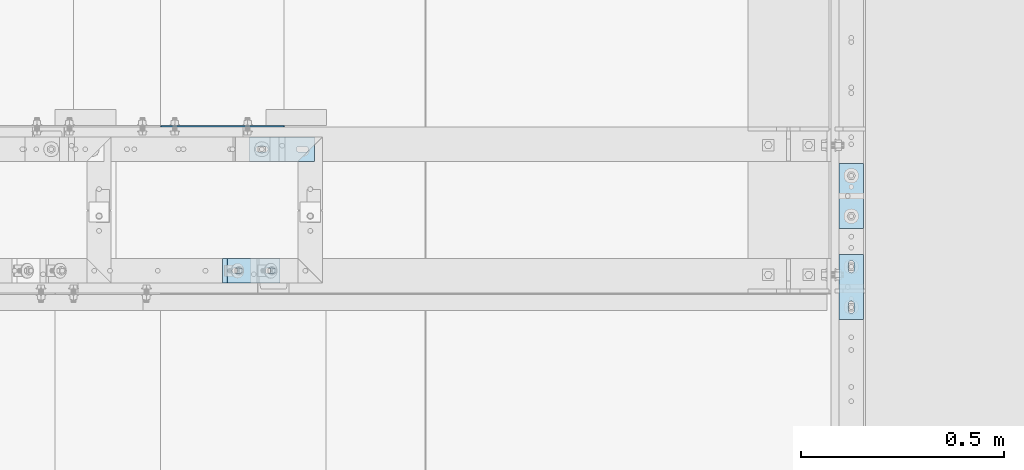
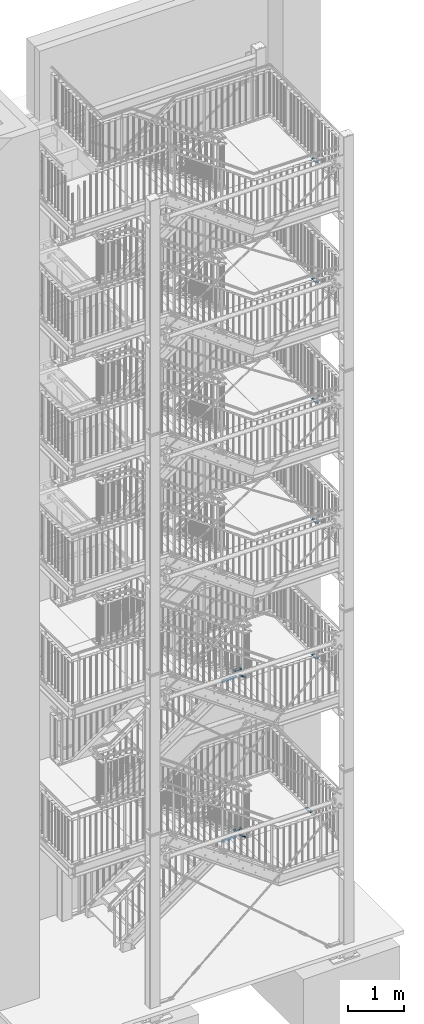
# One storey, part 200 of 825: 12 plates, 24 openings.
"""IFC2X3 building model written with IfcOpenShell, lengths in millimetres."""

import ifcopenshell
import ifcopenshell.guid

model = None  # the IFC model being written
_history = None  # IfcOwnerHistory: only IFC2X3 demands one
_inside = {}  # id of a spatial element -> (the spatial element, [elements in it])
_under = {}  # id of a project, library or spatial element -> (it, [spatial elements below it])
_declared = {}  # id of a project -> (the project, [libraries it declares])
_typed = {}  # id of a type object -> (the type object, [elements of that type])
_made_of = {}  # id of a material, layer set ... -> (it, [elements and type objects made of it])


def new_model(schema):
    """Start an empty IFC model of exactly this schema.

    Asked for "IFC4X3", IfcOpenShell would pick the latest addendum, in which some entities
    have other attributes; the version numbers below select the first issue.
    IFC2X3 requires an IfcOwnerHistory on every rooted entity: one is made here for all.
    """
    global model, _history
    if schema == "IFC4X3":
        model = ifcopenshell.file(schema_version=(4, 3, 0, 0))
    else:
        model = ifcopenshell.file(schema=schema)
    _inside.clear()
    _under.clear()
    _declared.clear()
    _typed.clear()
    _made_of.clear()
    _history = None
    if model.schema == "IFC2X3":
        org = make("IfcOrganization", Name="unknown")
        user = make(
            "IfcPersonAndOrganization",
            ThePerson=make("IfcPerson", FamilyName="unknown"),
            TheOrganization=org,
        )
        app = make(
            "IfcApplication",
            ApplicationDeveloper=org,
            Version="unknown",
            ApplicationFullName="unknown",
            ApplicationIdentifier="unknown",
        )
        _history = make(
            "IfcOwnerHistory",
            OwningUser=user,
            OwningApplication=app,
            ChangeAction="ADDED",
            CreationDate=0,
        )
    return model


def make(cls, **values):
    """One entity of the class cls with the attributes given. An attribute that is None is left unset."""
    return model.create_entity(
        cls, **{name: value for name, value in values.items() if value is not None}
    )


def entity(cls, *values):
    """Any entity or typed value of the class cls, its attributes in the order of the schema. None: left unset."""
    e = model.create_entity(cls)
    for i, value in enumerate(values):
        if value is not None:
            e[i] = value
    return e


def rooted(cls, **values):
    """An entity with a GlobalId (a new one), such as an element, a storey or a relation."""
    return make(cls, GlobalId=ifcopenshell.guid.new(), OwnerHistory=_history, **values)


def si_unit(unit_type, name, prefix=None):
    """IfcSIUnit, for example si_unit("LENGTHUNIT", "METRE", prefix="MILLI")."""
    return make("IfcSIUnit", UnitType=unit_type, Prefix=prefix, Name=name)


def converted_unit(unit_type, name, factor, base, dimensions=None, offset=None):
    """IfcConversionBasedUnit, such as the inch: factor (a typed value) times the base unit."""
    return make(
        "IfcConversionBasedUnit"
        if offset is None
        else "IfcConversionBasedUnitWithOffset",
        ConversionOffset=offset,
        Dimensions=None
        if dimensions is None
        else entity("IfcDimensionalExponents", *dimensions),
        UnitType=unit_type,
        Name=name,
        ConversionFactor=make(
            "IfcMeasureWithUnit", ValueComponent=factor, UnitComponent=base
        ),
    )


def assignment(units):
    """IfcUnitAssignment: the units of a project."""
    return None if units is None else make("IfcUnitAssignment", Units=units)


def point(xyz):
    """IfcCartesianPoint."""
    return None if xyz is None else make("IfcCartesianPoint", Coordinates=xyz)


def direction(xyz):
    """IfcDirection."""
    return None if xyz is None else make("IfcDirection", DirectionRatios=xyz)


def frame(location, z_axis=None, x_axis=None):
    """IfcAxis2Placement3D, a coordinate frame: its origin and axes. An axis left out is left unset."""
    return make(
        "IfcAxis2Placement3D",
        Location=point(location),
        Axis=direction(z_axis),
        RefDirection=direction(x_axis),
    )


def frame_2d(location, x_axis=None):
    """IfcAxis2Placement2D, a coordinate frame in the plane: its origin and x axis."""
    return make(
        "IfcAxis2Placement2D", Location=point(location), RefDirection=direction(x_axis)
    )


def origin():
    """The frame at (0, 0, 0) with its axes left unset."""
    return frame((0.0, 0.0, 0.0))


def origin_with_axes():
    """The frame at (0, 0, 0) with the z axis (0, 0, 1) and the x axis (1, 0, 0) written out."""
    return frame((0.0, 0.0, 0.0), z_axis=(0.0, 0.0, 1.0), x_axis=(1.0, 0.0, 0.0))


def origin_2d_with_axis():
    """The frame at (0, 0) in the plane with the x axis (1, 0) written out."""
    return frame_2d((0.0, 0.0), x_axis=(1.0, 0.0))


def place(relative_to, where):
    """IfcLocalPlacement: puts the frame where relative to a parent placement (None: the world)."""
    return make(
        "IfcLocalPlacement", PlacementRelTo=relative_to, RelativePlacement=where
    )


def context(
    kind, dimensions, precision=None, world=None, true_north=None, identifier=None
):
    """IfcGeometricRepresentationContext, for example the 3D "Model" context."""
    return make(
        "IfcGeometricRepresentationContext",
        ContextIdentifier=identifier,
        ContextType=kind,
        CoordinateSpaceDimension=dimensions,
        Precision=precision,
        WorldCoordinateSystem=world,
        TrueNorth=true_north,
    )


def project(units=None, contexts=None):
    """IfcProject with its units and contexts."""
    return rooted(
        "IfcProject",
        Name="project",
        RepresentationContexts=contexts,
        UnitsInContext=assignment(units),
    )


def spatial(cls, under=None, at=None, **own):
    """A site, building, storey or space (cls), placed at a placement, below another one or the project."""
    s = rooted(cls, ObjectPlacement=at, **own)
    if under is not None:
        _under.setdefault(under.id(), (under, []))[1].append(s)
    return s


def polyline(points):
    """IfcPolyline through the points."""
    return make("IfcPolyline", Points=[point(p) for p in points])


def circle_curve(where, radius):
    """IfcCircle in the frame where."""
    return make("IfcCircle", Position=where, Radius=radius)


def line_curve(start, along, magnitude):
    """IfcLine from a point along a vector."""
    return make(
        "IfcLine",
        Pnt=point(start),
        Dir=make("IfcVector", Orientation=direction(along), Magnitude=magnitude),
    )


def trimmed(basis, trim1, trim2, sense, master):
    """IfcTrimmedCurve: the piece of a basis curve between two trims."""
    return make(
        "IfcTrimmedCurve",
        BasisCurve=basis,
        Trim1=trim1,
        Trim2=trim2,
        SenseAgreement=sense,
        MasterRepresentation=master,
    )


def segment(curve, same_sense, transition):
    """IfcCompositeCurveSegment."""
    return make(
        "IfcCompositeCurveSegment",
        Transition=transition,
        SameSense=same_sense,
        ParentCurve=curve,
    )


def composite_curve(segments, self_intersect=None):
    """IfcCompositeCurve: segments joined end to end."""
    return make("IfcCompositeCurve", Segments=segments, SelfIntersect=self_intersect)


def profile(cls, at=None, kind="AREA", **sizes):
    """A parametric profile (cls). Its sizes go by their IFC names, for example OverallWidth=200.0."""
    return make(cls, ProfileType=kind, Position=at, **sizes)


def circle(**sizes):
    """IfcCircleProfileDef."""
    return profile("IfcCircleProfileDef", **sizes)


def outline(outer, holes=None, kind="AREA"):
    """IfcArbitraryClosedProfileDef: a profile drawn as a closed curve; with holes, ...WithVoids."""
    if holes is None:
        return make("IfcArbitraryClosedProfileDef", ProfileType=kind, OuterCurve=outer)
    return make(
        "IfcArbitraryProfileDefWithVoids",
        ProfileType=kind,
        OuterCurve=outer,
        InnerCurves=holes,
    )


def extrude(swept, where, along, depth):
    """IfcExtrudedAreaSolid: the profile swept, set in the frame where, extruded along a direction by depth."""
    return make(
        "IfcExtrudedAreaSolid",
        SweptArea=swept,
        Position=where,
        ExtrudedDirection=direction(along),
        Depth=depth,
    )


def shape(context_of_items, identifier, shape_type, items):
    """IfcShapeRepresentation: the items that make up one representation, for example the "Body"."""
    return make(
        "IfcShapeRepresentation",
        ContextOfItems=context_of_items,
        RepresentationIdentifier=identifier,
        RepresentationType=shape_type,
        Items=items,
    )


def material(Name=None, Category=None):
    """IfcMaterial."""
    return make("IfcMaterial", Name=Name, Category=Category)


def layer(
    of_material, thickness, ventilated=None, Name=None, Category=None, Priority=None
):
    """IfcMaterialLayer: one layer of a wall or slab, of a material (None: an air gap)."""
    return make(
        "IfcMaterialLayer",
        Material=of_material,
        LayerThickness=thickness,
        IsVentilated=ventilated,
        Name=Name,
        Category=Category,
        Priority=Priority,
    )


def layer_set(layers, Name=None):
    """IfcMaterialLayerSet."""
    return make("IfcMaterialLayerSet", MaterialLayers=layers, LayerSetName=Name)


def made_of(thing, what):
    """Note that an element or type object is made of a material, layer set ...; save() writes the relation."""
    if what is not None:
        _made_of.setdefault(what.id(), (what, []))[1].append(thing)
    return thing


def element(
    cls,
    number,
    at=None,
    inside=None,
    cuts=None,
    type_object=None,
    material=None,
    context=None,
    identifier="Body",
    shape_type=None,
    held_by="IfcProductDefinitionShape",
    body=None,
    shapes=None,
    **own,
):
    """One element of the class cls, such as IfcWall. Its Tag is "e" and its number.

    at: its placement. inside: the storey or other place that contains it. cuts: it is an
    opening in that element (IfcRelVoidsElement). A single representation is given by context,
    identifier, shape_type and body (its items); several are given by shapes. held_by: the class
    of the entity that holds the representations. save() writes the other relations.
    """
    e = rooted(cls, Tag="e%d" % number, ObjectPlacement=at, **own)
    if body is not None:
        shapes = [shape(context, identifier, shape_type, body)]
    if shapes is not None:
        e.Representation = make(held_by, Representations=shapes)
    if inside is not None:
        _inside.setdefault(inside.id(), (inside, []))[1].append(e)
    if cuts is not None:
        rooted(
            "IfcRelVoidsElement", RelatingBuildingElement=cuts, RelatedOpeningElement=e
        )
    if type_object is not None:
        _typed.setdefault(type_object.id(), (type_object, []))[1].append(e)
    return made_of(e, material)


def aggregate(whole, parts):
    """IfcRelAggregates: a whole, such as a stair, and the parts it consists of."""
    return rooted("IfcRelAggregates", RelatingObject=whole, RelatedObjects=parts)


def save(model, path):
    """Write the relations noted so far, then the file.

    IfcRelAggregates (storeys below a building ...), IfcRelContainedInSpatialStructure (elements
    in a storey), IfcRelDefinesByType, IfcRelAssociatesMaterial and IfcRelDeclares: one each for
    every whole, place, type object, material and project.
    """
    for whole, parts in _under.values():
        aggregate(whole, parts)
    for where, things in _inside.values():
        rooted(
            "IfcRelContainedInSpatialStructure",
            RelatedElements=things,
            RelatingStructure=where,
        )
    for kind, things in _typed.values():
        rooted("IfcRelDefinesByType", RelatedObjects=things, RelatingType=kind)
    for what, things in _made_of.values():
        rooted("IfcRelAssociatesMaterial", RelatedObjects=things, RelatingMaterial=what)
    for by, libraries in _declared.values():
        rooted("IfcRelDeclares", RelatingContext=by, RelatedDefinitions=libraries)
    model.write(path)


model = new_model("IFC2X3")

# Units and contexts
model_context = context("Model", 3, precision=1e-09, world=origin_with_axes())
ifc_project = project(units=[si_unit("LENGTHUNIT", "METRE", prefix="MILLI"), si_unit("AREAUNIT", "SQUARE_METRE"), si_unit("VOLUMEUNIT", "CUBIC_METRE"), converted_unit("PLANEANGLEUNIT", "DEGREE", entity("IfcPlaneAngleMeasure", 0.01745329), si_unit("PLANEANGLEUNIT", "RADIAN"), dimensions=[0, 0, 0, 0, 0, 0, 0])], contexts=[model_context])

# Site, building, storey
site_placement = place(None, origin_with_axes())
site = spatial("IfcSite", under=ifc_project, at=site_placement, Name="Cnopf'sche Kinderklinik", CompositionType="ELEMENT")
building_placement = place(site_placement, origin_with_axes())
building = spatial("IfcBuilding", under=site, at=building_placement, Name="Struktur 1", CompositionType="ELEMENT")
storey_placement = place(building_placement, origin_with_axes())
storey = spatial("IfcBuildingStorey", under=building, at=storey_placement, Name="Default Storey", CompositionType="ELEMENT", Elevation=0.0)

# Plate, openings
ifc_material = material(Name="S235JR")
ifc_layer_1 = layer(ifc_material, 20.0)
ifc_layer_set_1 = layer_set([ifc_layer_1], Name="S235JR")
plate_1_placement = place(None, frame((9051.713402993, 5896.351913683, 2181.0526312), z_axis=(0.0, 0.0, 1.0), x_axis=(0.0, 1.0, 0.0)))
plate_1 = element("IfcPlate", 1, at=plate_1_placement, inside=storey, material=ifc_layer_set_1, Name="Plate#505", ObjectType="Plate#505", context=model_context, shape_type="SweptSolid", body=[
    extrude(outline(polyline([(0.0, 0.0), (160.0, 0.0), (160.0, 60.0), (0.0, 60.0), (0.0, 0.0)])), origin_with_axes(), (0.0, 0.0, 1.0), 20.0),
])
opening_1_placement = place(plate_1_placement, frame((38.0, 37.001, 20.5), z_axis=(0.0, 0.0, 1.0), x_axis=(-1.0, 0.0, 0.0)))
element("IfcOpeningElement", 2, at=opening_1_placement, cuts=plate_1, ObjectType="Opening", context=model_context, shape_type="SweptSolid", body=[
    extrude(outline(composite_curve([segment(trimmed(line_curve((0.0, 0.0), (1.0, 0.0), 16.0), [point((0.0, 0.0))], [point((16.0, 0.0))], True, "CARTESIAN"), True, "CONTINUOUS"), segment(trimmed(circle_curve(frame_2d((16.0, 7.001), x_axis=(1.0, 0.0)), 7.001), [point((16.0, 0.0))], [point((16.0, 14.002))], True, "CARTESIAN"), True, "CONTINUOUS"), segment(trimmed(line_curve((16.0, 14.002), (-1.0, 0.0), 16.0), [point((16.0, 14.002))], [point((0.0, 14.002))], True, "CARTESIAN"), True, "CONTINUOUS"), segment(trimmed(circle_curve(frame_2d((0.0, 7.001), x_axis=(1.0, 0.0)), 7.001), [point((0.0, 14.002))], [point((0.0, 0.0))], True, "CARTESIAN"), True, "CONTINUOUS")], self_intersect=False)), origin(), (0.0, 0.0, -1.0), 21.0),
])
opening_2_placement = place(plate_1_placement, frame((138.0, 37.001, 20.5), z_axis=(0.0, 0.0, 1.0), x_axis=(-1.0, 0.0, 0.0)))
element("IfcOpeningElement", 3, at=opening_2_placement, cuts=plate_1, ObjectType="Opening", context=model_context, shape_type="SweptSolid", body=[
    extrude(outline(composite_curve([segment(trimmed(line_curve((0.0, 0.0), (1.0, 0.0), 16.0), [point((0.0, 0.0))], [point((16.0, 0.0))], True, "CARTESIAN"), True, "CONTINUOUS"), segment(trimmed(circle_curve(frame_2d((16.0, 7.001), x_axis=(1.0, 0.0)), 7.001), [point((16.0, 0.0))], [point((16.0, 14.002))], True, "CARTESIAN"), True, "CONTINUOUS"), segment(trimmed(line_curve((16.0, 14.002), (-1.0, 0.0), 16.0), [point((16.0, 14.002))], [point((0.0, 14.002))], True, "CARTESIAN"), True, "CONTINUOUS"), segment(trimmed(circle_curve(frame_2d((0.0, 7.001), x_axis=(1.0, 0.0)), 7.001), [point((0.0, 14.002))], [point((0.0, 0.0))], True, "CARTESIAN"), True, "CONTINUOUS")], self_intersect=False)), origin(), (0.0, 0.0, -1.0), 21.0),
])

plate_2_placement = place(None, frame((9051.713402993, 5671.736114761, 5674.8947367), z_axis=(0.0, 0.0, 1.0), x_axis=(0.0, 1.0, 0.0)))
plate_2 = element("IfcPlate", 4, at=plate_2_placement, inside=storey, material=ifc_layer_set_1, Name="Plate#506", ObjectType="Plate#506", context=model_context, shape_type="SweptSolid", body=[
    extrude(outline(polyline([(0.0, 0.0), (160.0, 0.0), (160.0, 60.0), (0.0, 60.0), (0.0, 0.0)])), origin_with_axes(), (0.0, 0.0, 1.0), 20.0),
])
opening_3_placement = place(plate_2_placement, frame((38.0, 37.001, 20.5), z_axis=(0.0, 0.0, 1.0), x_axis=(-1.0, 0.0, 0.0)))
element("IfcOpeningElement", 5, at=opening_3_placement, cuts=plate_2, ObjectType="Opening", context=model_context, shape_type="SweptSolid", body=[
    extrude(outline(composite_curve([segment(trimmed(line_curve((0.0, 0.0), (1.0, 0.0), 16.0), [point((0.0, 0.0))], [point((16.0, 0.0))], True, "CARTESIAN"), True, "CONTINUOUS"), segment(trimmed(circle_curve(frame_2d((16.0, 7.001), x_axis=(1.0, 0.0)), 7.001), [point((16.0, 0.0))], [point((16.0, 14.002))], True, "CARTESIAN"), True, "CONTINUOUS"), segment(trimmed(line_curve((16.0, 14.002), (-1.0, 0.0), 16.0), [point((16.0, 14.002))], [point((0.0, 14.002))], True, "CARTESIAN"), True, "CONTINUOUS"), segment(trimmed(circle_curve(frame_2d((0.0, 7.001), x_axis=(1.0, 0.0)), 7.001), [point((0.0, 14.002))], [point((0.0, 0.0))], True, "CARTESIAN"), True, "CONTINUOUS")], self_intersect=False)), origin(), (0.0, 0.0, -1.0), 21.0),
])
opening_4_placement = place(plate_2_placement, frame((138.0, 37.001, 20.5), z_axis=(0.0, 0.0, 1.0), x_axis=(-1.0, 0.0, 0.0)))
element("IfcOpeningElement", 6, at=opening_4_placement, cuts=plate_2, ObjectType="Opening", context=model_context, shape_type="SweptSolid", body=[
    extrude(outline(composite_curve([segment(trimmed(line_curve((0.0, 0.0), (1.0, 0.0), 16.0), [point((0.0, 0.0))], [point((16.0, 0.0))], True, "CARTESIAN"), True, "CONTINUOUS"), segment(trimmed(circle_curve(frame_2d((16.0, 7.001), x_axis=(1.0, 0.0)), 7.001), [point((16.0, 0.0))], [point((16.0, 14.002))], True, "CARTESIAN"), True, "CONTINUOUS"), segment(trimmed(line_curve((16.0, 14.002), (-1.0, 0.0), 16.0), [point((16.0, 14.002))], [point((0.0, 14.002))], True, "CARTESIAN"), True, "CONTINUOUS"), segment(trimmed(circle_curve(frame_2d((0.0, 7.001), x_axis=(1.0, 0.0)), 7.001), [point((0.0, 14.002))], [point((0.0, 0.0))], True, "CARTESIAN"), True, "CONTINUOUS")], self_intersect=False)), origin(), (0.0, 0.0, -1.0), 21.0),
])

plate_3_placement = place(None, frame((9051.713402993, 5671.736114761, 8636.0), z_axis=(0.0, 0.0, 1.0), x_axis=(0.0, 1.0, 0.0)))
plate_3 = element("IfcPlate", 7, at=plate_3_placement, inside=storey, material=ifc_layer_set_1, Name="Plate#506", ObjectType="Plate#506", context=model_context, shape_type="SweptSolid", body=[
    extrude(outline(polyline([(0.0, 0.0), (160.0, 0.0), (160.0, 60.0), (0.0, 60.0), (0.0, 0.0)])), origin_with_axes(), (0.0, 0.0, 1.0), 20.0),
])
opening_5_placement = place(plate_3_placement, frame((38.0, 37.001, 20.5), z_axis=(0.0, 0.0, 1.0), x_axis=(-1.0, 0.0, 0.0)))
element("IfcOpeningElement", 8, at=opening_5_placement, cuts=plate_3, ObjectType="Opening", context=model_context, shape_type="SweptSolid", body=[
    extrude(outline(composite_curve([segment(trimmed(line_curve((0.0, 0.0), (1.0, 0.0), 16.0), [point((0.0, 0.0))], [point((16.0, 0.0))], True, "CARTESIAN"), True, "CONTINUOUS"), segment(trimmed(circle_curve(frame_2d((16.0, 7.001), x_axis=(1.0, 0.0)), 7.001), [point((16.0, 0.0))], [point((16.0, 14.002))], True, "CARTESIAN"), True, "CONTINUOUS"), segment(trimmed(line_curve((16.0, 14.002), (-1.0, 0.0), 16.0), [point((16.0, 14.002))], [point((0.0, 14.002))], True, "CARTESIAN"), True, "CONTINUOUS"), segment(trimmed(circle_curve(frame_2d((0.0, 7.001), x_axis=(1.0, 0.0)), 7.001), [point((0.0, 14.002))], [point((0.0, 0.0))], True, "CARTESIAN"), True, "CONTINUOUS")], self_intersect=False)), origin(), (0.0, 0.0, -1.0), 21.0),
])
opening_6_placement = place(plate_3_placement, frame((138.0, 37.001, 20.5), z_axis=(0.0, 0.0, 1.0), x_axis=(-1.0, 0.0, 0.0)))
element("IfcOpeningElement", 9, at=opening_6_placement, cuts=plate_3, ObjectType="Opening", context=model_context, shape_type="SweptSolid", body=[
    extrude(outline(composite_curve([segment(trimmed(line_curve((0.0, 0.0), (1.0, 0.0), 16.0), [point((0.0, 0.0))], [point((16.0, 0.0))], True, "CARTESIAN"), True, "CONTINUOUS"), segment(trimmed(circle_curve(frame_2d((16.0, 7.001), x_axis=(1.0, 0.0)), 7.001), [point((16.0, 0.0))], [point((16.0, 14.002))], True, "CARTESIAN"), True, "CONTINUOUS"), segment(trimmed(line_curve((16.0, 14.002), (-1.0, 0.0), 16.0), [point((16.0, 14.002))], [point((0.0, 14.002))], True, "CARTESIAN"), True, "CONTINUOUS"), segment(trimmed(circle_curve(frame_2d((0.0, 7.001), x_axis=(1.0, 0.0)), 7.001), [point((0.0, 14.002))], [point((0.0, 0.0))], True, "CARTESIAN"), True, "CONTINUOUS")], self_intersect=False)), origin(), (0.0, 0.0, -1.0), 21.0),
])

plate_4_placement = place(None, frame((9051.713402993, 5671.736114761, 11265.5000003), z_axis=(0.0, 0.0, 1.0), x_axis=(0.0, 1.0, 0.0)))
plate_4 = element("IfcPlate", 10, at=plate_4_placement, inside=storey, material=ifc_layer_set_1, Name="Plate#506", ObjectType="Plate#506", context=model_context, shape_type="SweptSolid", body=[
    extrude(outline(polyline([(0.0, 0.0), (160.0, 0.0), (160.0, 60.0), (0.0, 60.0), (0.0, 0.0)])), origin_with_axes(), (0.0, 0.0, 1.0), 20.0),
])
opening_7_placement = place(plate_4_placement, frame((38.0, 37.001, 20.5), z_axis=(0.0, 0.0, 1.0), x_axis=(-1.0, 0.0, 0.0)))
element("IfcOpeningElement", 11, at=opening_7_placement, cuts=plate_4, ObjectType="Opening", context=model_context, shape_type="SweptSolid", body=[
    extrude(outline(composite_curve([segment(trimmed(line_curve((0.0, 0.0), (1.0, 0.0), 16.0), [point((0.0, 0.0))], [point((16.0, 0.0))], True, "CARTESIAN"), True, "CONTINUOUS"), segment(trimmed(circle_curve(frame_2d((16.0, 7.001), x_axis=(1.0, 0.0)), 7.001), [point((16.0, 0.0))], [point((16.0, 14.002))], True, "CARTESIAN"), True, "CONTINUOUS"), segment(trimmed(line_curve((16.0, 14.002), (-1.0, 0.0), 16.0), [point((16.0, 14.002))], [point((0.0, 14.002))], True, "CARTESIAN"), True, "CONTINUOUS"), segment(trimmed(circle_curve(frame_2d((0.0, 7.001), x_axis=(1.0, 0.0)), 7.001), [point((0.0, 14.002))], [point((0.0, 0.0))], True, "CARTESIAN"), True, "CONTINUOUS")], self_intersect=False)), origin(), (0.0, 0.0, -1.0), 21.0),
])
opening_8_placement = place(plate_4_placement, frame((138.0, 37.001, 20.5), z_axis=(0.0, 0.0, 1.0), x_axis=(-1.0, 0.0, 0.0)))
element("IfcOpeningElement", 12, at=opening_8_placement, cuts=plate_4, ObjectType="Opening", context=model_context, shape_type="SweptSolid", body=[
    extrude(outline(composite_curve([segment(trimmed(line_curve((0.0, 0.0), (1.0, 0.0), 16.0), [point((0.0, 0.0))], [point((16.0, 0.0))], True, "CARTESIAN"), True, "CONTINUOUS"), segment(trimmed(circle_curve(frame_2d((16.0, 7.001), x_axis=(1.0, 0.0)), 7.001), [point((16.0, 0.0))], [point((16.0, 14.002))], True, "CARTESIAN"), True, "CONTINUOUS"), segment(trimmed(line_curve((16.0, 14.002), (-1.0, 0.0), 16.0), [point((16.0, 14.002))], [point((0.0, 14.002))], True, "CARTESIAN"), True, "CONTINUOUS"), segment(trimmed(circle_curve(frame_2d((0.0, 7.001), x_axis=(1.0, 0.0)), 7.001), [point((0.0, 14.002))], [point((0.0, 0.0))], True, "CARTESIAN"), True, "CONTINUOUS")], self_intersect=False)), origin(), (0.0, 0.0, -1.0), 21.0),
])

plate_5_placement = place(None, frame((9051.713402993, 5671.73611476, 13896.5000001), z_axis=(0.0, 0.0, 1.0), x_axis=(0.0, 1.0, 0.0)))
plate_5 = element("IfcPlate", 13, at=plate_5_placement, inside=storey, material=ifc_layer_set_1, Name="Plate#506", ObjectType="Plate#506", context=model_context, shape_type="SweptSolid", body=[
    extrude(outline(polyline([(0.0, 0.0), (160.0, 0.0), (160.0, 60.0), (0.0, 60.0), (0.0, 0.0)])), origin_with_axes(), (0.0, 0.0, 1.0), 20.0),
])
opening_9_placement = place(plate_5_placement, frame((38.0, 37.001, 20.5), z_axis=(0.0, 0.0, 1.0), x_axis=(-1.0, 0.0, 0.0)))
element("IfcOpeningElement", 14, at=opening_9_placement, cuts=plate_5, ObjectType="Opening", context=model_context, shape_type="SweptSolid", body=[
    extrude(outline(composite_curve([segment(trimmed(line_curve((0.0, 0.0), (1.0, 0.0), 16.0), [point((0.0, 0.0))], [point((16.0, 0.0))], True, "CARTESIAN"), True, "CONTINUOUS"), segment(trimmed(circle_curve(frame_2d((16.0, 7.001), x_axis=(1.0, 0.0)), 7.001), [point((16.0, 0.0))], [point((16.0, 14.002))], True, "CARTESIAN"), True, "CONTINUOUS"), segment(trimmed(line_curve((16.0, 14.002), (-1.0, 0.0), 16.0), [point((16.0, 14.002))], [point((0.0, 14.002))], True, "CARTESIAN"), True, "CONTINUOUS"), segment(trimmed(circle_curve(frame_2d((0.0, 7.001), x_axis=(1.0, 0.0)), 7.001), [point((0.0, 14.002))], [point((0.0, 0.0))], True, "CARTESIAN"), True, "CONTINUOUS")], self_intersect=False)), origin(), (0.0, 0.0, -1.0), 21.0),
])
opening_10_placement = place(plate_5_placement, frame((138.0, 37.001, 20.5), z_axis=(0.0, 0.0, 1.0), x_axis=(-1.0, 0.0, 0.0)))
element("IfcOpeningElement", 15, at=opening_10_placement, cuts=plate_5, ObjectType="Opening", context=model_context, shape_type="SweptSolid", body=[
    extrude(outline(composite_curve([segment(trimmed(line_curve((0.0, 0.0), (1.0, 0.0), 16.0), [point((0.0, 0.0))], [point((16.0, 0.0))], True, "CARTESIAN"), True, "CONTINUOUS"), segment(trimmed(circle_curve(frame_2d((16.0, 7.001), x_axis=(1.0, 0.0)), 7.001), [point((16.0, 0.0))], [point((16.0, 14.002))], True, "CARTESIAN"), True, "CONTINUOUS"), segment(trimmed(line_curve((16.0, 14.002), (-1.0, 0.0), 16.0), [point((16.0, 14.002))], [point((0.0, 14.002))], True, "CARTESIAN"), True, "CONTINUOUS"), segment(trimmed(circle_curve(frame_2d((0.0, 7.001), x_axis=(1.0, 0.0)), 7.001), [point((0.0, 14.002))], [point((0.0, 0.0))], True, "CARTESIAN"), True, "CONTINUOUS")], self_intersect=False)), origin(), (0.0, 0.0, -1.0), 21.0),
])

ifc_layer_2 = layer(ifc_material, 3.0)
ifc_layer_set_2 = layer_set([ifc_layer_2], Name="S235JR")
plate_6_placement = place(None, frame((7316.713402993, 6149.736971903, 2035.947368), z_axis=(0.0, -1.0, 0.0), x_axis=(0.0, 0.0, -1.0)))
plate_6 = element("IfcPlate", 16, at=plate_6_placement, inside=storey, material=ifc_layer_set_2, Name="Grate_Step#59", ObjectType="Grate_Step#59", context=model_context, shape_type="SweptSolid", body=[
    extrude(outline(polyline([(0.0, 0.0), (70.0, 0.0), (70.0, 275.0), (40.0, 305.0), (0.0, 305.0), (0.0, 0.0)])), origin_with_axes(), (0.0, 0.0, 1.0), 3.0),
])
opening_11_placement = place(plate_6_placement, frame((55.0, 215.0, -0.5), z_axis=(0.0, 0.0, 1.0), x_axis=(0.0, 1.0, 0.0)))
element("IfcOpeningElement", 17, at=opening_11_placement, cuts=plate_6, ObjectType="Opening", context=model_context, shape_type="SweptSolid", body=[
    extrude(outline(composite_curve([segment(trimmed(line_curve((-9.5, -7.001), (1.0, 0.0), 19.0), [point((-9.5, -7.001))], [point((9.5, -7.001))], True, "CARTESIAN"), True, "CONTINUOUS"), segment(trimmed(circle_curve(frame_2d((9.5, 0.0), x_axis=(1.0, 0.0)), 7.001), [point((9.5, -7.001))], [point((9.5, 7.001))], True, "CARTESIAN"), True, "CONTINUOUS"), segment(trimmed(line_curve((9.5, 7.001), (-1.0, 0.0), 19.0), [point((9.5, 7.001))], [point((-9.5, 7.001))], True, "CARTESIAN"), True, "CONTINUOUS"), segment(trimmed(circle_curve(frame_2d((-9.5, 0.0), x_axis=(1.0, 0.0)), 7.001), [point((-9.5, 7.001))], [point((-9.5, -7.001))], True, "CARTESIAN"), True, "CONTINUOUS")], self_intersect=False)), origin(), (0.0, 0.0, 1.0), 4.0),
])
opening_12_placement = place(plate_6_placement, frame((55.0, 35.0, -0.5), z_axis=(0.0, 0.0, 1.0), x_axis=(0.0, 1.0, 0.0)))
element("IfcOpeningElement", 18, at=opening_12_placement, cuts=plate_6, ObjectType="Opening", context=model_context, shape_type="SweptSolid", body=[
    extrude(circle(Radius=7.001, at=origin_2d_with_axis()), origin(), (0.0, 0.0, 1.0), 4.0),
])

plate_7_placement = place(None, frame((7316.713402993, 6149.736971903, 5532.105263), z_axis=(0.0, -1.0, 0.0), x_axis=(0.0, 0.0, -1.0)))
plate_7 = element("IfcPlate", 19, at=plate_7_placement, inside=storey, material=ifc_layer_set_2, Name="Grate_Step#59", ObjectType="Grate_Step#59", context=model_context, shape_type="SweptSolid", body=[
    extrude(outline(polyline([(0.0, 0.0), (70.0, 0.0), (70.0, 275.0), (40.0, 305.0), (0.0, 305.0), (0.0, 0.0)])), origin_with_axes(), (0.0, 0.0, 1.0), 3.0),
])
opening_13_placement = place(plate_7_placement, frame((55.0, 35.0, -0.5), z_axis=(0.0, 0.0, 1.0), x_axis=(0.0, 1.0, 0.0)))
element("IfcOpeningElement", 20, at=opening_13_placement, cuts=plate_7, ObjectType="Opening", context=model_context, shape_type="SweptSolid", body=[
    extrude(circle(Radius=7.001, at=origin_2d_with_axis()), origin(), (0.0, 0.0, 1.0), 4.0),
])
opening_14_placement = place(plate_7_placement, frame((55.0, 215.0, -0.5), z_axis=(0.0, 0.0, 1.0), x_axis=(0.0, 1.0, 0.0)))
element("IfcOpeningElement", 21, at=opening_14_placement, cuts=plate_7, ObjectType="Opening", context=model_context, shape_type="SweptSolid", body=[
    extrude(outline(composite_curve([segment(trimmed(line_curve((-9.5, -7.001), (1.0, 0.0), 19.0), [point((-9.5, -7.001))], [point((9.5, -7.001))], True, "CARTESIAN"), True, "CONTINUOUS"), segment(trimmed(circle_curve(frame_2d((9.5, 0.0), x_axis=(1.0, 0.0)), 7.001), [point((9.5, -7.001))], [point((9.5, 7.001))], True, "CARTESIAN"), True, "CONTINUOUS"), segment(trimmed(line_curve((9.5, 7.001), (-1.0, 0.0), 19.0), [point((9.5, 7.001))], [point((-9.5, 7.001))], True, "CARTESIAN"), True, "CONTINUOUS"), segment(trimmed(circle_curve(frame_2d((-9.5, 0.0), x_axis=(1.0, 0.0)), 7.001), [point((-9.5, 7.001))], [point((-9.5, -7.001))], True, "CARTESIAN"), True, "CONTINUOUS")], self_intersect=False)), origin(), (0.0, 0.0, 1.0), 4.0),
])

plate_8_placement = place(None, frame((9051.713402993, 5671.736114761, 16524.0000003), z_axis=(0.0, 0.0, 1.0), x_axis=(0.0, 1.0, 0.0)))
plate_8 = element("IfcPlate", 22, at=plate_8_placement, inside=storey, material=ifc_layer_set_1, Name="Plate#506", ObjectType="Plate#506", context=model_context, shape_type="SweptSolid", body=[
    extrude(outline(polyline([(0.0, 0.0), (160.0, 0.0), (160.0, 60.0), (0.0, 60.0), (0.0, 0.0)])), origin_with_axes(), (0.0, 0.0, 1.0), 20.0),
])
opening_15_placement = place(plate_8_placement, frame((38.0, 37.001, 20.5), z_axis=(0.0, 0.0, 1.0), x_axis=(-1.0, 0.0, 0.0)))
element("IfcOpeningElement", 23, at=opening_15_placement, cuts=plate_8, ObjectType="Opening", context=model_context, shape_type="SweptSolid", body=[
    extrude(outline(composite_curve([segment(trimmed(line_curve((0.0, 0.0), (1.0, 0.0), 16.0), [point((0.0, 0.0))], [point((16.0, 0.0))], True, "CARTESIAN"), True, "CONTINUOUS"), segment(trimmed(circle_curve(frame_2d((16.0, 7.001), x_axis=(1.0, 0.0)), 7.001), [point((16.0, 0.0))], [point((16.0, 14.002))], True, "CARTESIAN"), True, "CONTINUOUS"), segment(trimmed(line_curve((16.0, 14.002), (-1.0, 0.0), 16.0), [point((16.0, 14.002))], [point((0.0, 14.002))], True, "CARTESIAN"), True, "CONTINUOUS"), segment(trimmed(circle_curve(frame_2d((0.0, 7.001), x_axis=(1.0, 0.0)), 7.001), [point((0.0, 14.002))], [point((0.0, 0.0))], True, "CARTESIAN"), True, "CONTINUOUS")], self_intersect=False)), origin(), (0.0, 0.0, -1.0), 21.0),
])
opening_16_placement = place(plate_8_placement, frame((138.0, 37.001, 20.5), z_axis=(0.0, 0.0, 1.0), x_axis=(-1.0, 0.0, 0.0)))
element("IfcOpeningElement", 24, at=opening_16_placement, cuts=plate_8, ObjectType="Opening", context=model_context, shape_type="SweptSolid", body=[
    extrude(outline(composite_curve([segment(trimmed(line_curve((0.0, 0.0), (1.0, 0.0), 16.0), [point((0.0, 0.0))], [point((16.0, 0.0))], True, "CARTESIAN"), True, "CONTINUOUS"), segment(trimmed(circle_curve(frame_2d((16.0, 7.001), x_axis=(1.0, 0.0)), 7.001), [point((16.0, 0.0))], [point((16.0, 14.002))], True, "CARTESIAN"), True, "CONTINUOUS"), segment(trimmed(line_curve((16.0, 14.002), (-1.0, 0.0), 16.0), [point((16.0, 14.002))], [point((0.0, 14.002))], True, "CARTESIAN"), True, "CONTINUOUS"), segment(trimmed(circle_curve(frame_2d((0.0, 7.001), x_axis=(1.0, 0.0)), 7.001), [point((0.0, 14.002))], [point((0.0, 0.0))], True, "CARTESIAN"), True, "CONTINUOUS")], self_intersect=False)), origin(), (0.0, 0.0, -1.0), 21.0),
])

plate_9_placement = place(None, frame((7696.713902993, 6121.736971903, 2181.0526312), z_axis=(0.0, 0.0, 1.0), x_axis=(-1.0, 0.0, 0.0)))
plate_9 = element("IfcPlate", 25, at=plate_9_placement, inside=storey, material=ifc_layer_set_1, Name="Plate#502", ObjectType="Plate#502", context=model_context, shape_type="SweptSolid", body=[
    extrude(outline(polyline([(0.0, 0.0), (160.0, 0.0), (160.0, 60.0), (0.0, 60.0), (0.0, 0.0)])), origin_with_axes(), (0.0, 0.0, 1.0), 20.0),
])
opening_17_placement = place(plate_9_placement, frame((38.0, 37.001, 20.5), z_axis=(0.0, 0.0, 1.0), x_axis=(-1.0, 0.0, 0.0)))
element("IfcOpeningElement", 26, at=opening_17_placement, cuts=plate_9, ObjectType="Opening", context=model_context, shape_type="SweptSolid", body=[
    extrude(outline(composite_curve([segment(trimmed(line_curve((0.0, 0.0), (1.0, 0.0), 16.0), [point((0.0, 0.0))], [point((16.0, 0.0))], True, "CARTESIAN"), True, "CONTINUOUS"), segment(trimmed(circle_curve(frame_2d((16.0, 7.001), x_axis=(1.0, 0.0)), 7.001), [point((16.0, 0.0))], [point((16.0, 14.002))], True, "CARTESIAN"), True, "CONTINUOUS"), segment(trimmed(line_curve((16.0, 14.002), (-1.0, 0.0), 16.0), [point((16.0, 14.002))], [point((0.0, 14.002))], True, "CARTESIAN"), True, "CONTINUOUS"), segment(trimmed(circle_curve(frame_2d((0.0, 7.001), x_axis=(1.0, 0.0)), 7.001), [point((0.0, 14.002))], [point((0.0, 0.0))], True, "CARTESIAN"), True, "CONTINUOUS")], self_intersect=False)), origin(), (0.0, 0.0, -1.0), 21.0),
])
opening_18_placement = place(plate_9_placement, frame((138.0, 37.001, 20.5), z_axis=(0.0, 0.0, 1.0), x_axis=(-1.0, 0.0, 0.0)))
element("IfcOpeningElement", 27, at=opening_18_placement, cuts=plate_9, ObjectType="Opening", context=model_context, shape_type="SweptSolid", body=[
    extrude(outline(composite_curve([segment(trimmed(line_curve((0.0, 0.0), (1.0, 0.0), 16.0), [point((0.0, 0.0))], [point((16.0, 0.0))], True, "CARTESIAN"), True, "CONTINUOUS"), segment(trimmed(circle_curve(frame_2d((16.0, 7.001), x_axis=(1.0, 0.0)), 7.001), [point((16.0, 0.0))], [point((16.0, 14.002))], True, "CARTESIAN"), True, "CONTINUOUS"), segment(trimmed(line_curve((16.0, 14.002), (-1.0, 0.0), 16.0), [point((16.0, 14.002))], [point((0.0, 14.002))], True, "CARTESIAN"), True, "CONTINUOUS"), segment(trimmed(circle_curve(frame_2d((0.0, 7.001), x_axis=(1.0, 0.0)), 7.001), [point((0.0, 14.002))], [point((0.0, 0.0))], True, "CARTESIAN"), True, "CONTINUOUS")], self_intersect=False)), origin(), (0.0, 0.0, -1.0), 21.0),
])

plate_10_placement = place(None, frame((7696.713902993, 6121.736971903, 5674.8947367), z_axis=(0.0, 0.0, 1.0), x_axis=(-1.0, 0.0, 0.0)))
plate_10 = element("IfcPlate", 28, at=plate_10_placement, inside=storey, material=ifc_layer_set_1, Name="Plate#503", ObjectType="Plate#503", context=model_context, shape_type="SweptSolid", body=[
    extrude(outline(polyline([(0.0, 0.0), (160.0, 0.0), (160.0, 60.0), (0.0, 60.0), (0.0, 0.0)])), origin_with_axes(), (0.0, 0.0, 1.0), 20.0),
])
opening_19_placement = place(plate_10_placement, frame((38.0, 37.001, 20.5), z_axis=(0.0, 0.0, 1.0), x_axis=(-1.0, 0.0, 0.0)))
element("IfcOpeningElement", 29, at=opening_19_placement, cuts=plate_10, ObjectType="Opening", context=model_context, shape_type="SweptSolid", body=[
    extrude(outline(composite_curve([segment(trimmed(line_curve((0.0, 0.0), (1.0, 0.0), 16.0), [point((0.0, 0.0))], [point((16.0, 0.0))], True, "CARTESIAN"), True, "CONTINUOUS"), segment(trimmed(circle_curve(frame_2d((16.0, 7.001), x_axis=(1.0, 0.0)), 7.001), [point((16.0, 0.0))], [point((16.0, 14.002))], True, "CARTESIAN"), True, "CONTINUOUS"), segment(trimmed(line_curve((16.0, 14.002), (-1.0, 0.0), 16.0), [point((16.0, 14.002))], [point((0.0, 14.002))], True, "CARTESIAN"), True, "CONTINUOUS"), segment(trimmed(circle_curve(frame_2d((0.0, 7.001), x_axis=(1.0, 0.0)), 7.001), [point((0.0, 14.002))], [point((0.0, 0.0))], True, "CARTESIAN"), True, "CONTINUOUS")], self_intersect=False)), origin(), (0.0, 0.0, -1.0), 21.0),
])
opening_20_placement = place(plate_10_placement, frame((138.0, 37.001, 20.5), z_axis=(0.0, 0.0, 1.0), x_axis=(-1.0, 0.0, 0.0)))
element("IfcOpeningElement", 30, at=opening_20_placement, cuts=plate_10, ObjectType="Opening", context=model_context, shape_type="SweptSolid", body=[
    extrude(outline(composite_curve([segment(trimmed(line_curve((0.0, 0.0), (1.0, 0.0), 16.0), [point((0.0, 0.0))], [point((16.0, 0.0))], True, "CARTESIAN"), True, "CONTINUOUS"), segment(trimmed(circle_curve(frame_2d((16.0, 7.001), x_axis=(1.0, 0.0)), 7.001), [point((16.0, 0.0))], [point((16.0, 14.002))], True, "CARTESIAN"), True, "CONTINUOUS"), segment(trimmed(line_curve((16.0, 14.002), (-1.0, 0.0), 16.0), [point((16.0, 14.002))], [point((0.0, 14.002))], True, "CARTESIAN"), True, "CONTINUOUS"), segment(trimmed(circle_curve(frame_2d((0.0, 7.001), x_axis=(1.0, 0.0)), 7.001), [point((0.0, 14.002))], [point((0.0, 0.0))], True, "CARTESIAN"), True, "CONTINUOUS")], self_intersect=False)), origin(), (0.0, 0.0, -1.0), 21.0),
])

plate_11_placement = place(None, frame((7470.039705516, 5761.736971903, 2296.998257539), z_axis=(0.579973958, 0.0, 0.814635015), x_axis=(0.814635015, 0.0, -0.579973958)))
plate_11 = element("IfcPlate", 31, at=plate_11_placement, inside=storey, material=ifc_layer_set_1, Name="Plate#500", ObjectType="Plate#500", context=model_context, shape_type="SweptSolid", body=[
    extrude(outline(polyline([(0.0, 0.0), (160.0, 0.0), (160.0, 60.0), (0.0, 60.0), (0.0, 0.0)])), origin_with_axes(), (0.0, 0.0, 1.0), 20.0),
])
opening_21_placement = place(plate_11_placement, frame((38.0, 37.001, 20.5), z_axis=(0.0, 0.0, 1.0), x_axis=(-1.0, 0.0, 0.0)))
element("IfcOpeningElement", 32, at=opening_21_placement, cuts=plate_11, ObjectType="Opening", context=model_context, shape_type="SweptSolid", body=[
    extrude(outline(composite_curve([segment(trimmed(line_curve((0.0, 0.0), (1.0, 0.0), 16.0), [point((0.0, 0.0))], [point((16.0, 0.0))], True, "CARTESIAN"), True, "CONTINUOUS"), segment(trimmed(circle_curve(frame_2d((16.0, 7.001), x_axis=(1.0, 0.0)), 7.001), [point((16.0, 0.0))], [point((16.0, 14.002))], True, "CARTESIAN"), True, "CONTINUOUS"), segment(trimmed(line_curve((16.0, 14.002), (-1.0, 0.0), 16.0), [point((16.0, 14.002))], [point((0.0, 14.002))], True, "CARTESIAN"), True, "CONTINUOUS"), segment(trimmed(circle_curve(frame_2d((0.0, 7.001), x_axis=(1.0, 0.0)), 7.001), [point((0.0, 14.002))], [point((0.0, 0.0))], True, "CARTESIAN"), True, "CONTINUOUS")], self_intersect=False)), origin(), (0.0, 0.0, -1.0), 21.0),
])
opening_22_placement = place(plate_11_placement, frame((138.0, 37.001, 20.5), z_axis=(0.0, 0.0, 1.0), x_axis=(-1.0, 0.0, 0.0)))
element("IfcOpeningElement", 33, at=opening_22_placement, cuts=plate_11, ObjectType="Opening", context=model_context, shape_type="SweptSolid", body=[
    extrude(outline(composite_curve([segment(trimmed(line_curve((0.0, 0.0), (1.0, 0.0), 16.0), [point((0.0, 0.0))], [point((16.0, 0.0))], True, "CARTESIAN"), True, "CONTINUOUS"), segment(trimmed(circle_curve(frame_2d((16.0, 7.001), x_axis=(1.0, 0.0)), 7.001), [point((16.0, 0.0))], [point((16.0, 14.002))], True, "CARTESIAN"), True, "CONTINUOUS"), segment(trimmed(line_curve((16.0, 14.002), (-1.0, 0.0), 16.0), [point((16.0, 14.002))], [point((0.0, 14.002))], True, "CARTESIAN"), True, "CONTINUOUS"), segment(trimmed(circle_curve(frame_2d((0.0, 7.001), x_axis=(1.0, 0.0)), 7.001), [point((0.0, 14.002))], [point((0.0, 0.0))], True, "CARTESIAN"), True, "CONTINUOUS")], self_intersect=False)), origin(), (0.0, 0.0, -1.0), 21.0),
])

plate_12_placement = place(None, frame((7469.696690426, 5761.736971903, 5790.131385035), z_axis=(0.57512827, 0.0, 0.818063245), x_axis=(0.818063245, 0.0, -0.57512827)))
plate_12 = element("IfcPlate", 34, at=plate_12_placement, inside=storey, material=ifc_layer_set_1, Name="Plate#500", ObjectType="Plate#500", context=model_context, shape_type="SweptSolid", body=[
    extrude(outline(polyline([(0.0, 0.0), (160.0, 0.0), (160.0, 60.0), (0.0, 60.0), (0.0, 0.0)])), origin_with_axes(), (0.0, 0.0, 1.0), 20.0),
])
opening_23_placement = place(plate_12_placement, frame((38.0, 37.001, 20.5), z_axis=(0.0, 0.0, 1.0), x_axis=(-1.0, 0.0, 0.0)))
element("IfcOpeningElement", 35, at=opening_23_placement, cuts=plate_12, ObjectType="Opening", context=model_context, shape_type="SweptSolid", body=[
    extrude(outline(composite_curve([segment(trimmed(line_curve((0.0, 0.0), (1.0, 0.0), 16.0), [point((0.0, 0.0))], [point((16.0, 0.0))], True, "CARTESIAN"), True, "CONTINUOUS"), segment(trimmed(circle_curve(frame_2d((16.0, 7.001), x_axis=(1.0, 0.0)), 7.001), [point((16.0, 0.0))], [point((16.0, 14.002))], True, "CARTESIAN"), True, "CONTINUOUS"), segment(trimmed(line_curve((16.0, 14.002), (-1.0, 0.0), 16.0), [point((16.0, 14.002))], [point((0.0, 14.002))], True, "CARTESIAN"), True, "CONTINUOUS"), segment(trimmed(circle_curve(frame_2d((0.0, 7.001), x_axis=(1.0, 0.0)), 7.001), [point((0.0, 14.002))], [point((0.0, 0.0))], True, "CARTESIAN"), True, "CONTINUOUS")], self_intersect=False)), origin(), (0.0, 0.0, -1.0), 21.0),
])
opening_24_placement = place(plate_12_placement, frame((138.0, 37.001, 20.5), z_axis=(0.0, 0.0, 1.0), x_axis=(-1.0, 0.0, 0.0)))
element("IfcOpeningElement", 36, at=opening_24_placement, cuts=plate_12, ObjectType="Opening", context=model_context, shape_type="SweptSolid", body=[
    extrude(outline(composite_curve([segment(trimmed(line_curve((0.0, 0.0), (1.0, 0.0), 16.0), [point((0.0, 0.0))], [point((16.0, 0.0))], True, "CARTESIAN"), True, "CONTINUOUS"), segment(trimmed(circle_curve(frame_2d((16.0, 7.001), x_axis=(1.0, 0.0)), 7.001), [point((16.0, 0.0))], [point((16.0, 14.002))], True, "CARTESIAN"), True, "CONTINUOUS"), segment(trimmed(line_curve((16.0, 14.002), (-1.0, 0.0), 16.0), [point((16.0, 14.002))], [point((0.0, 14.002))], True, "CARTESIAN"), True, "CONTINUOUS"), segment(trimmed(circle_curve(frame_2d((0.0, 7.001), x_axis=(1.0, 0.0)), 7.001), [point((0.0, 14.002))], [point((0.0, 0.0))], True, "CARTESIAN"), True, "CONTINUOUS")], self_intersect=False)), origin(), (0.0, 0.0, -1.0), 21.0),
])

save(model, "model.ifc")
